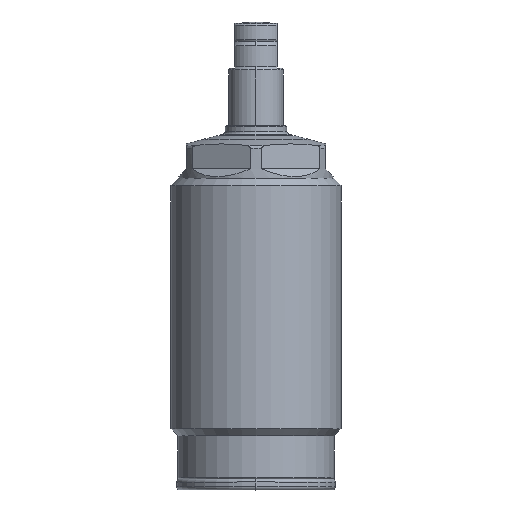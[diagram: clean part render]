
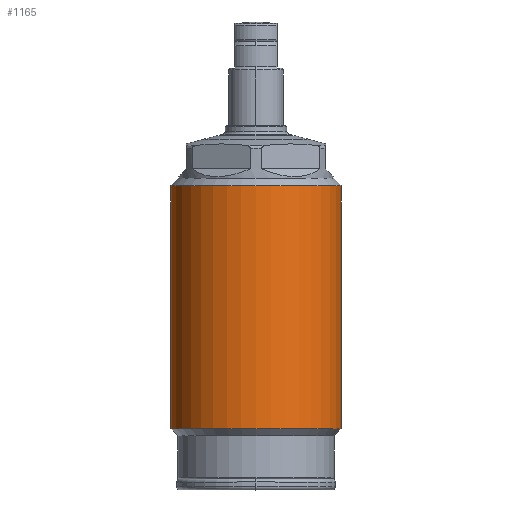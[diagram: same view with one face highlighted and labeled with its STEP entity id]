
A CAD part, top view. The second image highlights one B-rep face of the part: STEP entity #1165.
In plain terms, the highlighted cylindrical face has radius 11 mm (diameter 22 mm), a partial arc.
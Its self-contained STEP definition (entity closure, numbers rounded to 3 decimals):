
#905=CYLINDRICAL_SURFACE('',#3142,11.);
#991=LINE('',#4454,#1082);
#992=LINE('',#4458,#1083);
#1082=VECTOR('',#3598,1.);
#1083=VECTOR('',#3601,1.);
#1165=ADVANCED_FACE('',(#1368),#905,.T.);
#1368=FACE_OUTER_BOUND('',#1506,.T.);
#1506=EDGE_LOOP('',(#1746,#1747,#1748,#1749));
#1746=ORIENTED_EDGE('',*,*,#2613,.T.);
#1747=ORIENTED_EDGE('',*,*,#2615,.T.);
#1748=ORIENTED_EDGE('',*,*,#2616,.F.);
#1749=ORIENTED_EDGE('',*,*,#2617,.F.);
#2400=VERTEX_POINT('',#4449);
#2401=VERTEX_POINT('',#4451);
#2402=VERTEX_POINT('',#4455);
#2403=VERTEX_POINT('',#4457);
#2613=EDGE_CURVE('',#2401,#2400,#2917,.T.);
#2615=EDGE_CURVE('',#2400,#2402,#991,.T.);
#2616=EDGE_CURVE('',#2403,#2402,#2918,.T.);
#2617=EDGE_CURVE('',#2401,#2403,#992,.T.);
#2917=CIRCLE('',#3139,11.);
#2918=CIRCLE('',#3141,11.);
#3139=AXIS2_PLACEMENT_3D('',#4450,#3593,#3594);
#3141=AXIS2_PLACEMENT_3D('',#4456,#3599,#3600);
#3142=AXIS2_PLACEMENT_3D('',#4459,#3602,#3603);
#3593=DIRECTION('',(0.,-1.,0.));
#3594=DIRECTION('',(1.,0.,0.));
#3598=DIRECTION('',(0.,-1.,0.));
#3599=DIRECTION('',(0.,-1.,0.));
#3600=DIRECTION('',(1.,0.,0.));
#3601=DIRECTION('',(0.,-1.,0.));
#3602=DIRECTION('',(0.,-1.,0.));
#3603=DIRECTION('',(-1.,0.,0.));
#4449=CARTESIAN_POINT('',(-11.,38.,0.));
#4450=CARTESIAN_POINT('',(0.,38.,0.));
#4451=CARTESIAN_POINT('',(11.,38.,0.));
#4454=CARTESIAN_POINT('',(-11.,0.,0.));
#4455=CARTESIAN_POINT('',(-11.,6.6,0.));
#4456=CARTESIAN_POINT('',(0.,6.6,0.));
#4457=CARTESIAN_POINT('',(11.,6.6,0.));
#4458=CARTESIAN_POINT('',(11.,0.,0.));
#4459=CARTESIAN_POINT('',(0.,0.,0.));
